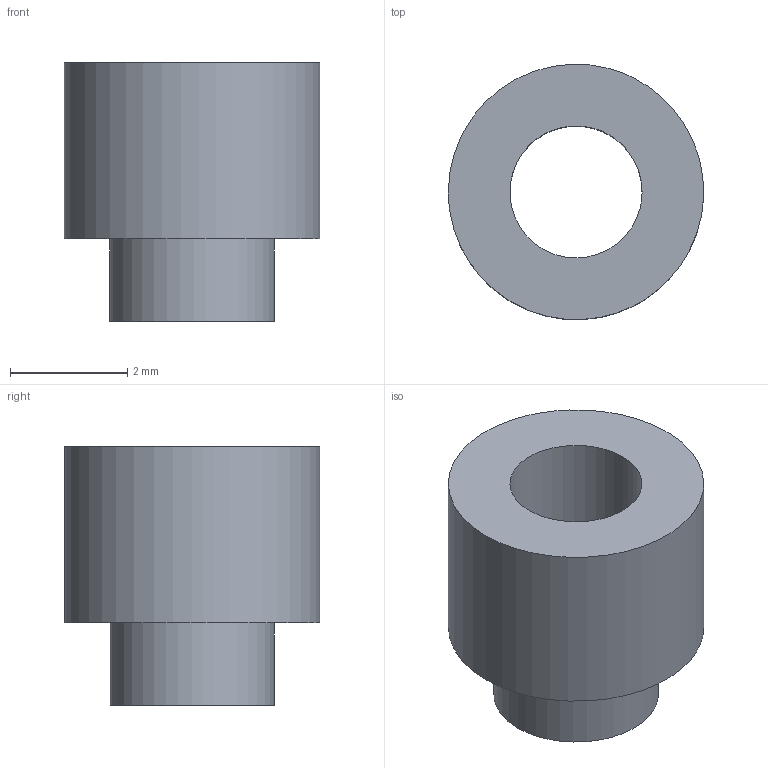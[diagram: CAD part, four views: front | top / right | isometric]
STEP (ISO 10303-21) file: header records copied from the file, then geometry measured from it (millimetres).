
FILE_DESCRIPTION(('FreeCAD Model'),'2;1');
FILE_NAME('Open CASCADE Shape Model','2026-03-20T17:23:08',('Author'),( ''),'Open CASCADE STEP processor 7.8','FreeCAD','Unknown');
FILE_SCHEMA(('AP242_MANAGED_MODEL_BASED_3D_ENGINEERING_MIM_LF. {1 0 10303 442 1 1 4 }'));
Length unit declared in the file: millimetre
Products named in the file (1): 1_transformed
Bounding box: 4.35 x 4.35 x 4.4 mm (x, y, z)
Volume: 36 mm3; surface area: 106.4 mm2
Topology: 1 solids, 1 shells, 6 faces, 9 edges, 6 vertices
Faces by surface type: bspline 6
Entity records: 201 total; most frequent: CARTESIAN_POINT 109, ORIENTED_EDGE 18, FACE_BOUND 9, EDGE_LOOP 9, EDGE_CURVE 9, ADVANCED_FACE 6, VERTEX_POINT 6, B_SPLINE_SURFACE_WITH_KNOTS 3
